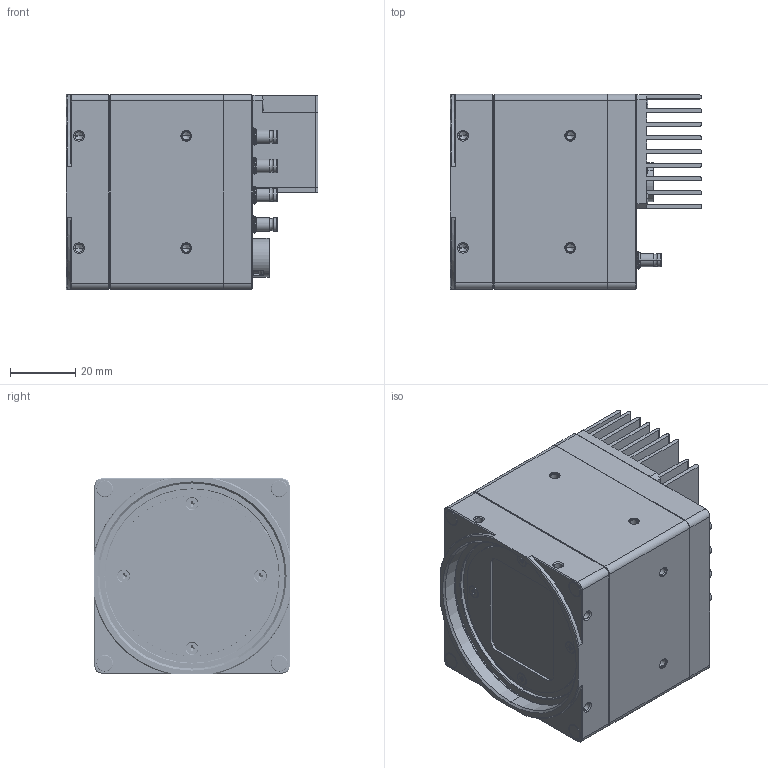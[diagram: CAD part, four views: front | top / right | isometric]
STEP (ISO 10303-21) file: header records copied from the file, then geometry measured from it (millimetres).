
FILE_DESCRIPTION((''),'2;1');
FILE_NAME('MV-CH140-90YMC_ASM_ASM','2026-03-23T20:37:24',('wangyijun6'),(''),'CREO PARAMETRIC BY PTC INC, 2020044','CREO PARAMETRIC BY PTC INC, 2020044','');
FILE_SCHEMA(('CONFIG_CONTROL_DESIGN'));
Products named in the file (1): MV-CH140-90YMC_ASM_ASM
Bounding box: 77.47 x 60 x 60 mm (x, y, z)
Volume: 149603.7 mm3; surface area: 66329.4 mm2
Topology: 1 solids, 67 shells, 2709 faces, 7215 edges, 4574 vertices
Faces by surface type: plane 1128, cylinder 958, cone 455, torus 92, bspline 76
Entity records: 136153 total; most frequent: CARTESIAN_POINT 68791, DIRECTION 14176, ORIENTED_EDGE 14035, EDGE_CURVE 7133, AXIS2_PLACEMENT_3D 5276, VERTEX_POINT 4574, VECTOR 3624, LINE 3624
